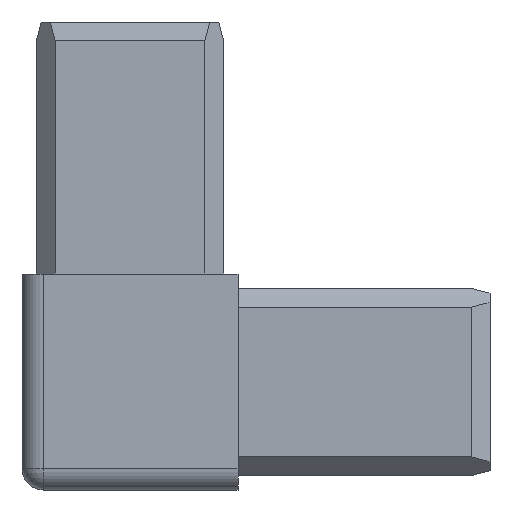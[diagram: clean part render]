
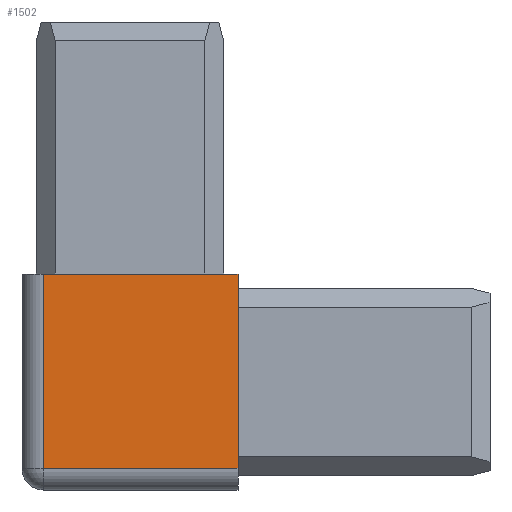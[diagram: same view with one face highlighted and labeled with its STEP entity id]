
A CAD part, front view. The second image highlights one B-rep face of the part: STEP entity #1502.
In plain terms, the highlighted planar face has unit normal (0, -1, 0) as drawn and (0, 0, -1) by its records, which use the part's own axes.
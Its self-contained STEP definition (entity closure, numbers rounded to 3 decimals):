
#21 = CARTESIAN_POINT ( 'NONE',  ( -15., 12., -15. ) ) ;
#29 = CARTESIAN_POINT ( 'NONE',  ( 15., -15., -15. ) ) ;
#145 = LINE ( 'NONE', #429, #895 ) ;
#152 = LINE ( 'NONE', #21, #532 ) ;
#222 = CARTESIAN_POINT ( 'NONE',  ( 15., -15., -15. ) ) ;
#247 = ORIENTED_EDGE ( 'NONE', *, *, #1642, .F. ) ;
#261 = LINE ( 'NONE', #222, #470 ) ;
#403 = EDGE_CURVE ( 'NONE', #821, #1342, #145, .T. ) ;
#429 = CARTESIAN_POINT ( 'NONE',  ( -15., -15., -15. ) ) ;
#442 = AXIS2_PLACEMENT_3D ( 'NONE', #1366, #626, #1037 ) ;
#470 = VECTOR ( 'NONE', #825, 1000. ) ;
#532 = VECTOR ( 'NONE', #1751, 1000. ) ;
#626 = DIRECTION ( 'NONE',  ( 0., 0., 1. ) ) ;
#697 = EDGE_CURVE ( 'NONE', #821, #1594, #1225, .T. ) ;
#821 = VERTEX_POINT ( 'NONE', #1720 ) ;
#825 = DIRECTION ( 'NONE',  ( 0., 1., 0. ) ) ;
#878 = ORIENTED_EDGE ( 'NONE', *, *, #1861, .T. ) ;
#895 = VECTOR ( 'NONE', #1839, 1000. ) ;
#945 = CARTESIAN_POINT ( 'NONE',  ( -12., 15., -15. ) ) ;
#1007 = ORIENTED_EDGE ( 'NONE', *, *, #403, .F. ) ;
#1037 = DIRECTION ( 'NONE',  ( 1., 0., 0. ) ) ;
#1055 = FACE_OUTER_BOUND ( 'NONE', #1096, .T. ) ;
#1096 = EDGE_LOOP ( 'NONE', ( #1127, #878, #247, #1007 ) ) ;
#1127 = ORIENTED_EDGE ( 'NONE', *, *, #697, .T. ) ;
#1220 = VECTOR ( 'NONE', #1800, 1000. ) ;
#1225 = LINE ( 'NONE', #945, #1220 ) ;
#1300 = CARTESIAN_POINT ( 'NONE',  ( 15., 12., -15. ) ) ;
#1342 = VERTEX_POINT ( 'NONE', #29 ) ;
#1366 = CARTESIAN_POINT ( 'NONE',  ( -15., 15., -15. ) ) ;
#1398 = CARTESIAN_POINT ( 'NONE',  ( -12., 12., -15. ) ) ;
#1445 = VERTEX_POINT ( 'NONE', #1300 ) ;
#1494 = PLANE ( 'NONE',  #442 ) ;
#1502 = ADVANCED_FACE ( 'NONE', ( #1055 ), #1494, .F. ) ;
#1594 = VERTEX_POINT ( 'NONE', #1398 ) ;
#1642 = EDGE_CURVE ( 'NONE', #1342, #1445, #261, .T. ) ;
#1720 = CARTESIAN_POINT ( 'NONE',  ( -12., -15., -15. ) ) ;
#1751 = DIRECTION ( 'NONE',  ( 1., 0., 0. ) ) ;
#1800 = DIRECTION ( 'NONE',  ( 0., 1., 0. ) ) ;
#1839 = DIRECTION ( 'NONE',  ( 1., 0., 0. ) ) ;
#1861 = EDGE_CURVE ( 'NONE', #1594, #1445, #152, .T. ) ;
